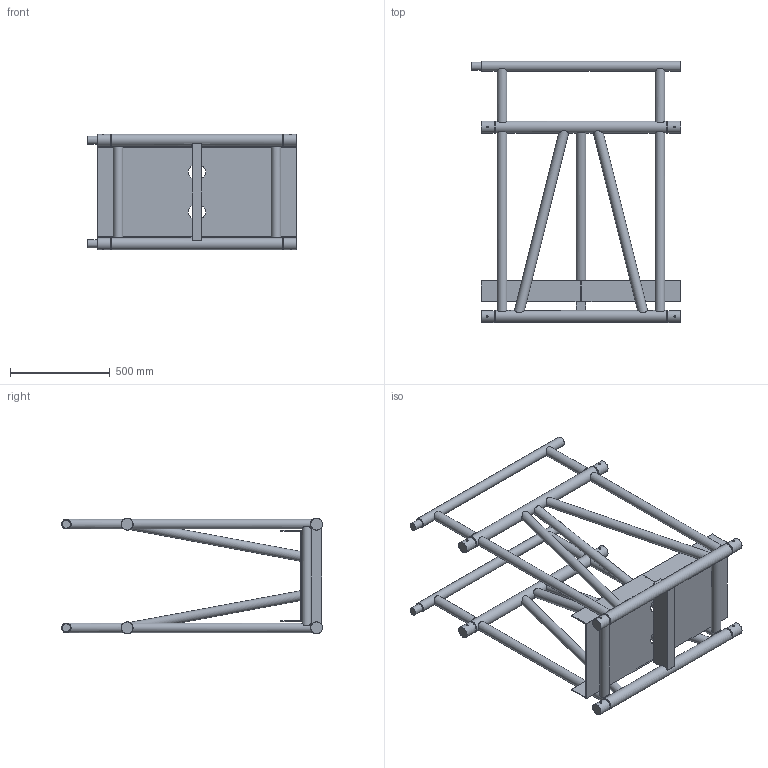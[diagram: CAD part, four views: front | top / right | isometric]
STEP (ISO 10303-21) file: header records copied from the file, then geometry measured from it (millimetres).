
FILE_DESCRIPTION(/* description */ (''),/* implementation_level */ '2;1');
FILE_NAME(/* name */ 'M:\Symbolen_NIEUW\STP\100-er truss\B100CW\B100CW-L100_260015461.stp',/* time_stamp */ '2017-12-06T13:39:23+01:00',/* author */ ('Kees'),/* organization */ (''),/* preprocessor_version */ 'ST-DEVELOPER v16.13',/* originating_system */ 'Autodesk Inventor 2018',/* authorisation */ '');
FILE_SCHEMA (('AUTOMOTIVE_DESIGN { 1 0 10303 214 3 1 1 }'));
Length unit declared in the file: millimetre
Products named in the file (1): 260015461
Bounding box: 1050 x 1309.15 x 580 mm (x, y, z)
Volume: 40722819.9 mm3; surface area: 4160717.8 mm2
Topology: 1 solids, 1 shells, 160 faces, 475 edges, 306 vertices
Faces by surface type: plane 108, cylinder 44, cone 8
Full cylindrical faces by diameter (mm): 10 x8, 40 x2, 48.3 x18, 58.8 x8, 60 x4
Entity records: 6538 total; most frequent: CARTESIAN_POINT 2457, DIRECTION 754, ORIENTED_EDGE 748, EDGE_CURVE 374, AXIS2_PLACEMENT_3D 287, VERTEX_POINT 278, EDGE_LOOP 274, LINE 180
